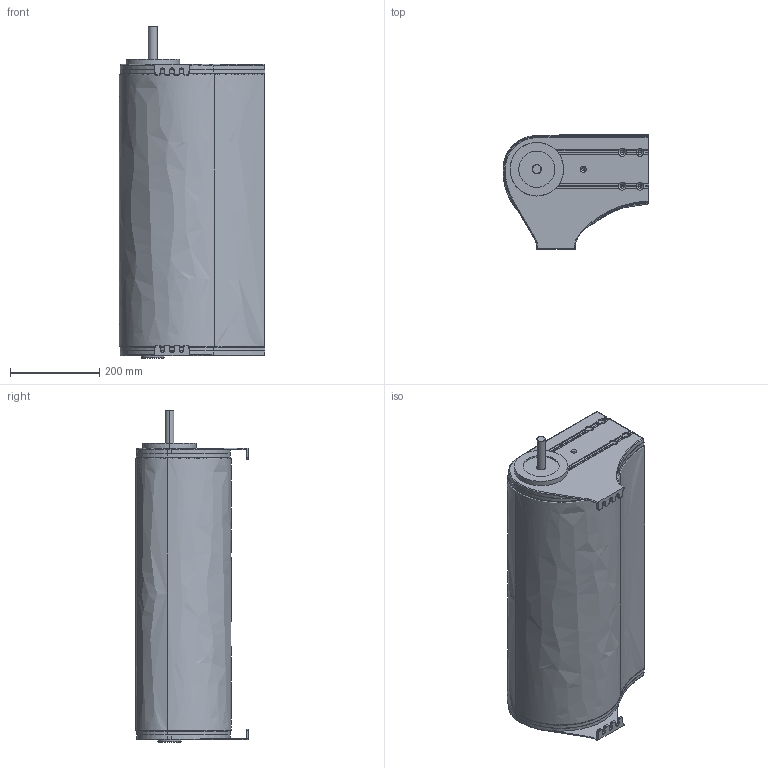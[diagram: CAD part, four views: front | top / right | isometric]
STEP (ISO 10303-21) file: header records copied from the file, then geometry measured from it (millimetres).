
FILE_DESCRIPTION (( 'STEP AP214' ), '1' );
FILE_NAME ('F2 2400 MDG20.step', '2017-04-05T07:33:17', ( '' ), ( '' ), 'SwSTEP 2.0', 'SolidWorks 2015', '' );
FILE_SCHEMA (( 'AUTOMOTIVE_DESIGN' ));
Length unit declared in the file: millimetre
Products named in the file (1): F2 2400 MDG20
Bounding box: 326.6 x 254.22 x 743.55 mm (x, y, z)
Volume: 38388906.3 mm3; surface area: 776350.3 mm2
Topology: 1 solids, 1 shells, 580 faces, 1484 edges, 887 vertices
Faces by surface type: cylinder 249, plane 152, torus 113, cone 42, bspline 24
Entity records: 19976 total; most frequent: CARTESIAN_POINT 5546, DIRECTION 2992, ORIENTED_EDGE 2920, EDGE_CURVE 1460, AXIS2_PLACEMENT_3D 1191, VERTEX_POINT 887, CIRCLE 634, VECTOR 610
